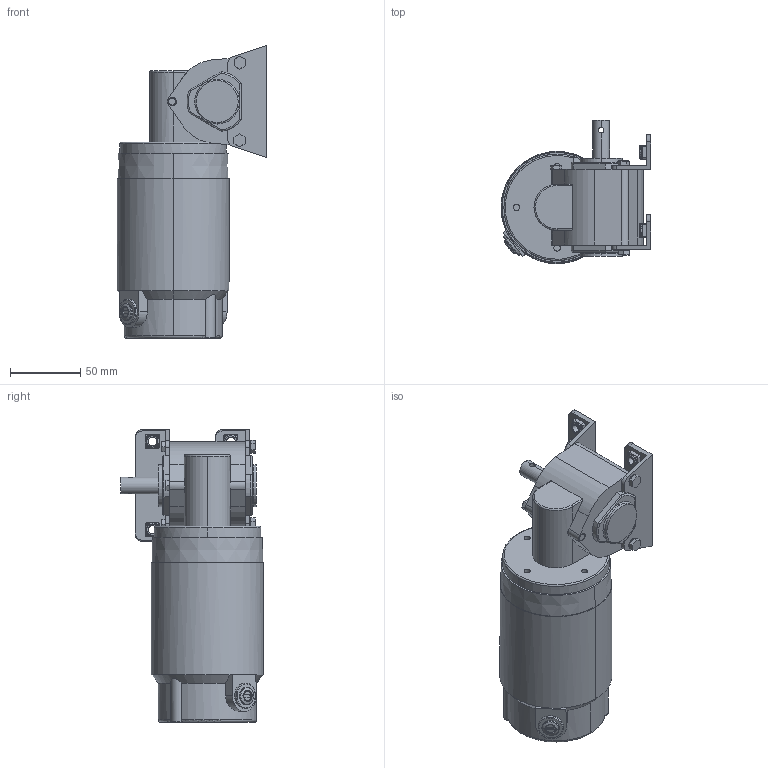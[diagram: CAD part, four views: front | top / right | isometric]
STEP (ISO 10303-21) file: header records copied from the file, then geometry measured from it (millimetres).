
FILE_DESCRIPTION (( 'STEP AP214' ), '1' );
FILE_NAME ('ANCN7152-E.STEP', '2021-05-28T02:03:15', ( 'Sky123.Org' ), ( 'Sky123.Org' ), 'SwSTEP 2.0', 'SolidWorks 2018', '' );
FILE_SCHEMA (( 'AUTOMOTIVE_DESIGN' ));
Length unit declared in the file: millimetre
Products named in the file (5): pan cross head_am_B18.6.7M - M4 x 0.7 x 25 Type I Cross Recessed PHMS --25S; hex screw_am_B18.6.7M - M4 x 0.7 x 5 Indented HHMS --5N; TLCM7152馬達; ANCN7152-E
Assembly tree (7 placements, depth 2):
  ANCN7152-E
    ANCN7152-E
    TLCM7152馬達
    hex screw_am_B18.6.7M - M4 x 0.7 x 5 Indented HHMS --5N  x3
    pan cross head_am_B18.6.7M - M4 x 0.7 x 25 Type I Cross Recessed PHMS --25S  x2
Bounding box: 106.97 x 102 x 209 mm (x, y, z)
Volume: 889683.5 mm3; surface area: 94497.7 mm2
Topology: 8 solids, 8 shells, 986 faces, 2484 edges, 1512 vertices
Faces by surface type: cone 311, cylinder 308, plane 201, torus 89, bspline 73, sphere 4
Entity records: 25191 total; most frequent: CARTESIAN_POINT 6852, DIRECTION 3722, ORIENTED_EDGE 3488, EDGE_CURVE 1744, AXIS2_PLACEMENT_3D 1532, VERTEX_POINT 1076, CIRCLE 884, EDGE_LOOP 760
